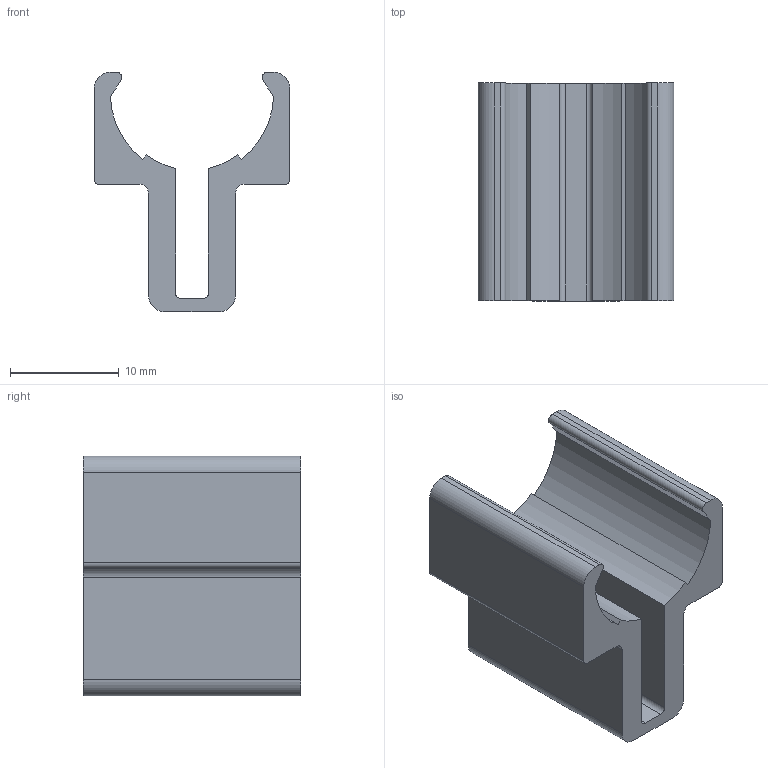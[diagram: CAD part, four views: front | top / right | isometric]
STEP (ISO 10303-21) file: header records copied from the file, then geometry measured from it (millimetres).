
FILE_DESCRIPTION(('STEP AP214'),'1');
FILE_NAME('cctmp_C62996EC-A404-4F02-85AB-A92BB378EA48_2023_04_28_15_45_11_0993_14436..stp','2023-04-28T13:45:12',('item Industrietechnik GmbH'),('CADClick - www.CADClick.com'),'Spatial InterOp 3D',' ','unknown authorization');
FILE_SCHEMA(('AUTOMOTIVE_DESIGN'));
Length unit declared in the file: millimetre
Products named in the file (2): item_0029434_Shaft-Clamp Profile 8 D14_L=20; item_0029434_Shaft-Clamp Profile 8 D14_L=20_1
Assembly tree (1 placements, depth 2):
  item_0029434_Shaft-Clamp Profile 8 D14_L=20
    item_0029434_Shaft-Clamp Profile 8 D14_L=20_1
Bounding box: 18 x 20 x 22 mm (x, y, z)
Volume: 2620.8 mm3; surface area: 2562.4 mm2
Topology: 1 solids, 1 shells, 34 faces, 96 edges, 64 vertices
Faces by surface type: plane 18, cylinder 16
Entity records: 1435 total; most frequent: DIRECTION 200, CARTESIAN_POINT 196, ORIENTED_EDGE 192, EDGE_CURVE 96, AXIS2_PLACEMENT_3D 68, VERTEX_POINT 64, LINE 64, VECTOR 64
